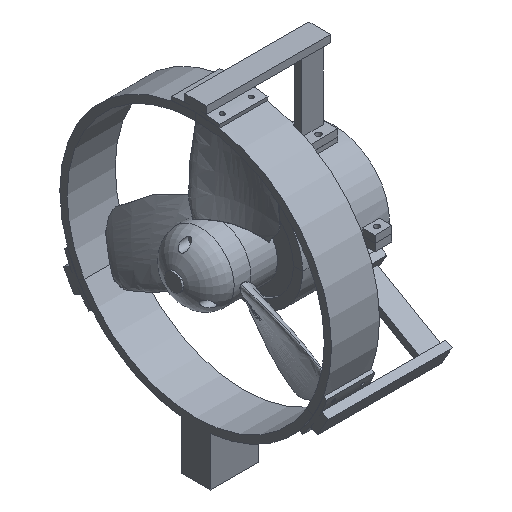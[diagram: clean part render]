
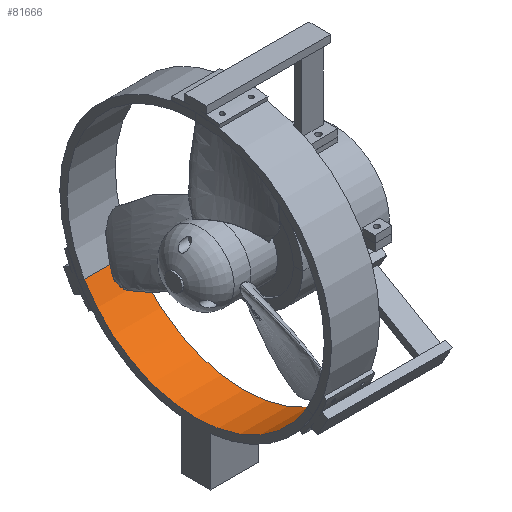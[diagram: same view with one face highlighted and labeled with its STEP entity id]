
A CAD part, isometric view. The second image highlights one B-rep face of the part: STEP entity #81666.
In plain terms, the highlighted cylindrical face has radius 107 mm (diameter 214 mm), a partial arc.
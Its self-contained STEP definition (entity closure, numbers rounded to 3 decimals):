
#80226 = PLANE('',#80227);
#80227 = AXIS2_PLACEMENT_3D('',#80228,#80229,#80230);
#80228 = CARTESIAN_POINT('',(-18.,0.,-86.472));
#80229 = DIRECTION('',(1.,0.,0.));
#80230 = DIRECTION('',(-0.,0.,1.));
#80254 = PLANE('',#80255);
#80255 = AXIS2_PLACEMENT_3D('',#80256,#80257,#80258);
#80256 = CARTESIAN_POINT('',(-18.,-92.665,-53.5));
#80257 = DIRECTION('',(0.,0.5,-0.866));
#80258 = DIRECTION('',(0.,-0.866,-0.5));
#80283 = PLANE('',#80284);
#80284 = AXIS2_PLACEMENT_3D('',#80285,#80286,#80287);
#80285 = CARTESIAN_POINT('',(22.,0.,-86.472));
#80286 = DIRECTION('',(1.,0.,0.));
#80287 = DIRECTION('',(-0.,0.,1.));
#80665 = VERTEX_POINT('',#80666);
#80666 = CARTESIAN_POINT('',(-18.,-92.665,-53.5));
#80797 = VERTEX_POINT('',#80798);
#80798 = CARTESIAN_POINT('',(-18.,92.665,-53.5));
#80812 = PLANE('',#80813);
#80813 = AXIS2_PLACEMENT_3D('',#80814,#80815,#80816);
#80814 = CARTESIAN_POINT('',(-18.,97.861,-56.5));
#80815 = DIRECTION('',(0.,-0.5,-0.866));
#80816 = DIRECTION('',(0.,-0.866,0.5));
#80824 = EDGE_CURVE('',#80797,#80665,#80825,.T.);
#80825 = SURFACE_CURVE('',#80826,(#80831,#80842),.PCURVE_S1.);
#80826 = CIRCLE('',#80827,107.);
#80827 = AXIS2_PLACEMENT_3D('',#80828,#80829,#80830);
#80828 = CARTESIAN_POINT('',(-18.,0.,0.));
#80829 = DIRECTION('',(-1.,-0.,0.));
#80830 = DIRECTION('',(-0.,0.866,-0.5));
#80831 = PCURVE('',#80226,#80832);
#80832 = DEFINITIONAL_REPRESENTATION('',(#80833),#80841);
#80833 = ( BOUNDED_CURVE() B_SPLINE_CURVE(2,(#80834,#80835,#80836,#80837
    ,#80838,#80839,#80840),.UNSPECIFIED.,.T.,.F.) 
B_SPLINE_CURVE_WITH_KNOTS((1,2,2,2,2,1),(-2.094,0.,
    2.094,4.189,6.283,8.378),
.UNSPECIFIED.) CURVE() GEOMETRIC_REPRESENTATION_ITEM() 
RATIONAL_B_SPLINE_CURVE((1.,0.5,1.,0.5,1.,0.5,1.)) REPRESENTATION_ITEM(
  '') );
#80834 = CARTESIAN_POINT('',(32.972,-92.665));
#80835 = CARTESIAN_POINT('',(-127.528,0.));
#80836 = CARTESIAN_POINT('',(32.972,92.665));
#80837 = CARTESIAN_POINT('',(193.472,185.329));
#80838 = CARTESIAN_POINT('',(193.472,0.));
#80839 = CARTESIAN_POINT('',(193.472,-185.329));
#80840 = CARTESIAN_POINT('',(32.972,-92.665));
#80841 = ( GEOMETRIC_REPRESENTATION_CONTEXT(2) 
PARAMETRIC_REPRESENTATION_CONTEXT() REPRESENTATION_CONTEXT('2D SPACE',''
  ) );
#80842 = PCURVE('',#80843,#80848);
#80843 = CYLINDRICAL_SURFACE('',#80844,107.);
#80844 = AXIS2_PLACEMENT_3D('',#80845,#80846,#80847);
#80845 = CARTESIAN_POINT('',(-18.,0.,0.));
#80846 = DIRECTION('',(-1.,-0.,0.));
#80847 = DIRECTION('',(-0.,0.866,-0.5));
#80848 = DEFINITIONAL_REPRESENTATION('',(#80849),#80853);
#80849 = LINE('',#80850,#80851);
#80850 = CARTESIAN_POINT('',(0.,0.));
#80851 = VECTOR('',#80852,1.);
#80852 = DIRECTION('',(1.,0.));
#80853 = ( GEOMETRIC_REPRESENTATION_CONTEXT(2) 
PARAMETRIC_REPRESENTATION_CONTEXT() REPRESENTATION_CONTEXT('2D SPACE',''
  ) );
#80908 = VERTEX_POINT('',#80909);
#80909 = CARTESIAN_POINT('',(22.,-92.665,-53.5));
#81003 = VERTEX_POINT('',#81004);
#81004 = CARTESIAN_POINT('',(22.,92.665,-53.5));
#81025 = EDGE_CURVE('',#81003,#80908,#81026,.T.);
#81026 = SURFACE_CURVE('',#81027,(#81032,#81043),.PCURVE_S1.);
#81027 = CIRCLE('',#81028,107.);
#81028 = AXIS2_PLACEMENT_3D('',#81029,#81030,#81031);
#81029 = CARTESIAN_POINT('',(22.,0.,0.));
#81030 = DIRECTION('',(-1.,-0.,0.));
#81031 = DIRECTION('',(-0.,0.866,-0.5));
#81032 = PCURVE('',#80283,#81033);
#81033 = DEFINITIONAL_REPRESENTATION('',(#81034),#81042);
#81034 = ( BOUNDED_CURVE() B_SPLINE_CURVE(2,(#81035,#81036,#81037,#81038
    ,#81039,#81040,#81041),.UNSPECIFIED.,.T.,.F.) 
B_SPLINE_CURVE_WITH_KNOTS((1,2,2,2,2,1),(-2.094,0.,
    2.094,4.189,6.283,8.378),
.UNSPECIFIED.) CURVE() GEOMETRIC_REPRESENTATION_ITEM() 
RATIONAL_B_SPLINE_CURVE((1.,0.5,1.,0.5,1.,0.5,1.)) REPRESENTATION_ITEM(
  '') );
#81035 = CARTESIAN_POINT('',(32.972,-92.665));
#81036 = CARTESIAN_POINT('',(-127.528,0.));
#81037 = CARTESIAN_POINT('',(32.972,92.665));
#81038 = CARTESIAN_POINT('',(193.472,185.329));
#81039 = CARTESIAN_POINT('',(193.472,0.));
#81040 = CARTESIAN_POINT('',(193.472,-185.329));
#81041 = CARTESIAN_POINT('',(32.972,-92.665));
#81042 = ( GEOMETRIC_REPRESENTATION_CONTEXT(2) 
PARAMETRIC_REPRESENTATION_CONTEXT() REPRESENTATION_CONTEXT('2D SPACE',''
  ) );
#81043 = PCURVE('',#80843,#81044);
#81044 = DEFINITIONAL_REPRESENTATION('',(#81045),#81049);
#81045 = LINE('',#81046,#81047);
#81046 = CARTESIAN_POINT('',(0.,-40.));
#81047 = VECTOR('',#81048,1.);
#81048 = DIRECTION('',(1.,0.));
#81049 = ( GEOMETRIC_REPRESENTATION_CONTEXT(2) 
PARAMETRIC_REPRESENTATION_CONTEXT() REPRESENTATION_CONTEXT('2D SPACE',''
  ) );
#81054 = EDGE_CURVE('',#80665,#80908,#81055,.T.);
#81055 = SURFACE_CURVE('',#81056,(#81060,#81067),.PCURVE_S1.);
#81056 = LINE('',#81057,#81058);
#81057 = CARTESIAN_POINT('',(-18.,-92.665,-53.5));
#81058 = VECTOR('',#81059,1.);
#81059 = DIRECTION('',(1.,0.,0.));
#81060 = PCURVE('',#80254,#81061);
#81061 = DEFINITIONAL_REPRESENTATION('',(#81062),#81066);
#81062 = LINE('',#81063,#81064);
#81063 = CARTESIAN_POINT('',(0.,0.));
#81064 = VECTOR('',#81065,1.);
#81065 = DIRECTION('',(0.,-1.));
#81066 = ( GEOMETRIC_REPRESENTATION_CONTEXT(2) 
PARAMETRIC_REPRESENTATION_CONTEXT() REPRESENTATION_CONTEXT('2D SPACE',''
  ) );
#81067 = PCURVE('',#80843,#81068);
#81068 = DEFINITIONAL_REPRESENTATION('',(#81069),#81073);
#81069 = LINE('',#81070,#81071);
#81070 = CARTESIAN_POINT('',(2.094,0.));
#81071 = VECTOR('',#81072,1.);
#81072 = DIRECTION('',(0.,-1.));
#81073 = ( GEOMETRIC_REPRESENTATION_CONTEXT(2) 
PARAMETRIC_REPRESENTATION_CONTEXT() REPRESENTATION_CONTEXT('2D SPACE',''
  ) );
#81645 = EDGE_CURVE('',#80797,#81003,#81646,.T.);
#81646 = SURFACE_CURVE('',#81647,(#81651,#81658),.PCURVE_S1.);
#81647 = LINE('',#81648,#81649);
#81648 = CARTESIAN_POINT('',(-18.,92.665,-53.5));
#81649 = VECTOR('',#81650,1.);
#81650 = DIRECTION('',(1.,0.,0.));
#81651 = PCURVE('',#80812,#81652);
#81652 = DEFINITIONAL_REPRESENTATION('',(#81653),#81657);
#81653 = LINE('',#81654,#81655);
#81654 = CARTESIAN_POINT('',(6.,0.));
#81655 = VECTOR('',#81656,1.);
#81656 = DIRECTION('',(0.,-1.));
#81657 = ( GEOMETRIC_REPRESENTATION_CONTEXT(2) 
PARAMETRIC_REPRESENTATION_CONTEXT() REPRESENTATION_CONTEXT('2D SPACE',''
  ) );
#81658 = PCURVE('',#80843,#81659);
#81659 = DEFINITIONAL_REPRESENTATION('',(#81660),#81664);
#81660 = LINE('',#81661,#81662);
#81661 = CARTESIAN_POINT('',(0.,0.));
#81662 = VECTOR('',#81663,1.);
#81663 = DIRECTION('',(0.,-1.));
#81664 = ( GEOMETRIC_REPRESENTATION_CONTEXT(2) 
PARAMETRIC_REPRESENTATION_CONTEXT() REPRESENTATION_CONTEXT('2D SPACE',''
  ) );
#81666 = ADVANCED_FACE('',(#81667),#80843,.F.);
#81667 = FACE_BOUND('',#81668,.F.);
#81668 = EDGE_LOOP('',(#81669,#81670,#81671,#81672));
#81669 = ORIENTED_EDGE('',*,*,#81645,.T.);
#81670 = ORIENTED_EDGE('',*,*,#81025,.T.);
#81671 = ORIENTED_EDGE('',*,*,#81054,.F.);
#81672 = ORIENTED_EDGE('',*,*,#80824,.F.);
